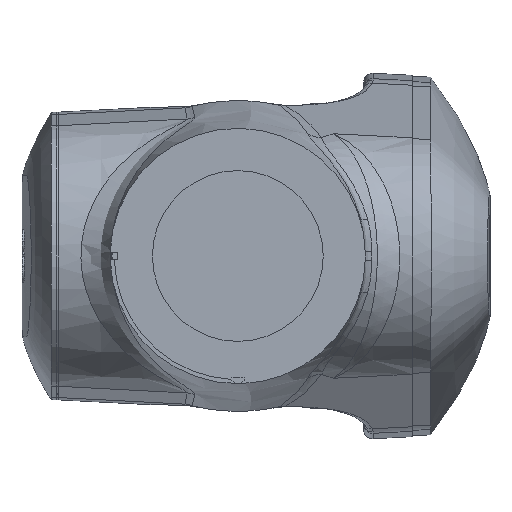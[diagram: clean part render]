
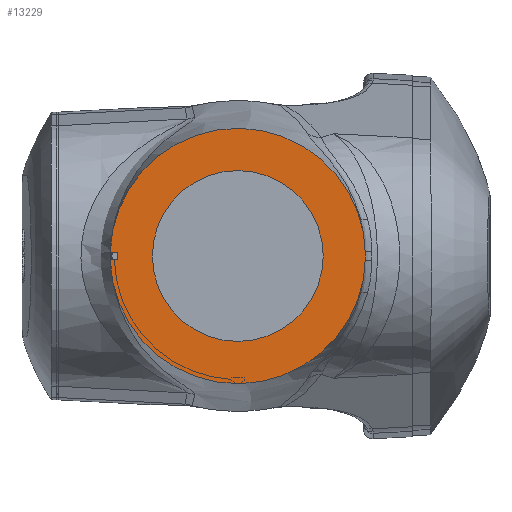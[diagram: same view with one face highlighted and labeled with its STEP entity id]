
A CAD part, left-side view. The second image highlights one B-rep face of the part: STEP entity #13229.
In plain terms, the highlighted planar face has unit normal (-1, 0, 0).
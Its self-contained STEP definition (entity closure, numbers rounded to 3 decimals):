
#30 = FACE_BOUND ( 'NONE', #31657, .T. ) ;
#54 = AXIS2_PLACEMENT_3D ( 'NONE', #9293, #6670, #3114 ) ;
#347 = CARTESIAN_POINT ( 'NONE',  ( 533., -95., 2525. ) ) ;
#2303 = FACE_OUTER_BOUND ( 'NONE', #31677, .T. ) ;
#2535 = ORIENTED_EDGE ( 'NONE', *, *, #21027, .T. ) ;
#2733 = EDGE_CURVE ( 'NONE', #30183, #24479, #16665, .T. ) ;
#3114 = DIRECTION ( 'NONE',  ( 0., -1., 0. ) ) ;
#3828 = VERTEX_POINT ( 'NONE', #8567 ) ;
#5260 = VECTOR ( 'NONE', #11514, 1000. ) ;
#6603 = CARTESIAN_POINT ( 'NONE',  ( 533., 134., 2529. ) ) ;
#6670 = DIRECTION ( 'NONE',  ( -1., 0., 0. ) ) ;
#7330 = ORIENTED_EDGE ( 'NONE', *, *, #2733, .F. ) ;
#7620 = LINE ( 'NONE', #27129, #28956 ) ;
#8567 = CARTESIAN_POINT ( 'NONE',  ( 533., 141.944, 2521. ) ) ;
#9293 = CARTESIAN_POINT ( 'NONE',  ( 533., 0., 2525. ) ) ;
#10748 = VERTEX_POINT ( 'NONE', #19915 ) ;
#11514 = DIRECTION ( 'NONE',  ( 0., 1., 0. ) ) ;
#11526 = ORIENTED_EDGE ( 'NONE', *, *, #16564, .T. ) ;
#12100 = AXIS2_PLACEMENT_3D ( 'NONE', #32339, #13027, #35286 ) ;
#13027 = DIRECTION ( 'NONE',  ( -1., 0., 0. ) ) ;
#13229 = ADVANCED_FACE ( 'NONE', ( #30, #2303 ), #36722, .T. ) ;
#13871 = ORIENTED_EDGE ( 'NONE', *, *, #20700, .F. ) ;
#16331 = VECTOR ( 'NONE', #27990, 1000. ) ;
#16564 = EDGE_CURVE ( 'NONE', #10748, #24479, #7620, .T. ) ;
#16665 = LINE ( 'NONE', #28168, #16331 ) ;
#17024 = DIRECTION ( 'NONE',  ( -1., 0., 0. ) ) ;
#17399 = CIRCLE ( 'NONE', #12100, 142. ) ;
#19446 = CARTESIAN_POINT ( 'NONE',  ( 533., 134., 2521. ) ) ;
#19713 = CIRCLE ( 'NONE', #54, 95. ) ;
#19915 = CARTESIAN_POINT ( 'NONE',  ( 533., 141.944, 2529. ) ) ;
#20326 = AXIS2_PLACEMENT_3D ( 'NONE', #33401, #17024, #25021 ) ;
#20388 = LINE ( 'NONE', #23550, #5260 ) ;
#20700 = EDGE_CURVE ( 'NONE', #28470, #28470, #19713, .T. ) ;
#21027 = EDGE_CURVE ( 'NONE', #30183, #3828, #20388, .T. ) ;
#23550 = CARTESIAN_POINT ( 'NONE',  ( 533., 0., 2521. ) ) ;
#24479 = VERTEX_POINT ( 'NONE', #6603 ) ;
#25021 = DIRECTION ( 'NONE',  ( 0., -1., 0. ) ) ;
#26680 = ORIENTED_EDGE ( 'NONE', *, *, #29824, .T. ) ;
#27129 = CARTESIAN_POINT ( 'NONE',  ( 533., 0., 2529. ) ) ;
#27990 = DIRECTION ( 'NONE',  ( 0., 0., 1. ) ) ;
#28168 = CARTESIAN_POINT ( 'NONE',  ( 533., 134., 2525. ) ) ;
#28470 = VERTEX_POINT ( 'NONE', #347 ) ;
#28956 = VECTOR ( 'NONE', #32349, 1000. ) ;
#29824 = EDGE_CURVE ( 'NONE', #3828, #10748, #17399, .T. ) ;
#30183 = VERTEX_POINT ( 'NONE', #19446 ) ;
#31657 = EDGE_LOOP ( 'NONE', ( #13871 ) ) ;
#31677 = EDGE_LOOP ( 'NONE', ( #7330, #2535, #26680, #11526 ) ) ;
#32339 = CARTESIAN_POINT ( 'NONE',  ( 533., 0., 2525. ) ) ;
#32349 = DIRECTION ( 'NONE',  ( 0., -1., 0. ) ) ;
#33401 = CARTESIAN_POINT ( 'NONE',  ( 533., 0., 2525. ) ) ;
#35286 = DIRECTION ( 'NONE',  ( 0., -1., 0. ) ) ;
#36722 = PLANE ( 'NONE',  #20326 ) ;
